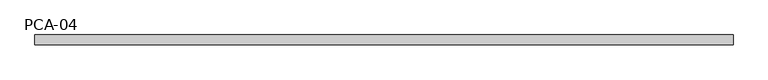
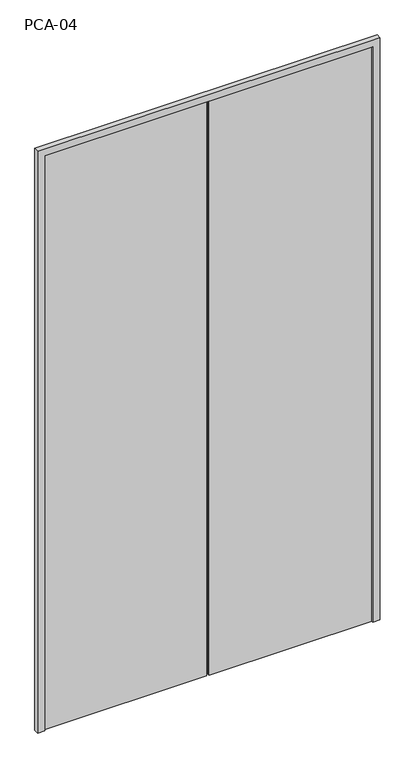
"""IFC4 building model written with IfcOpenShell, lengths in millimetres: furniture geometry, Puerta Closet abatible 2 hojas completas : PCA-04."""

from ifc_helpers import new_model, si_unit, frame, origin, origin_with_axes, place, context, project, spatial, polyline, outline, extrude, source, transform, mapped, element, save


def pca_04_a41ebd99(model_context):
    return source(origin(), model_context, "Body", "SweptSolid", [
        extrude(outline(polyline([(-585.0, 86.6666667), (-1260.0, 86.6666667), (-1260.0, 93.3333333), (-585.0, 93.3333333), (-585.0, 86.6666667)])), origin_with_axes(), (0.0, 0.0, 1.0), 2520.0),
        extrude(outline(polyline([(0.0, -1290.0), (0.0, -1260.0), (2520.0, -1260.0), (2520.0, 100.0), (0.0, 100.0), (0.0, 130.0), (2550.0, 130.0), (2550.0, -1290.0), (0.0, -1290.0)])), frame((0.0, 80.0, 0.0), z_axis=(0.0, 1.0, 0.0), x_axis=(0.0, 0.0, 1.0)), (0.0, 0.0, 1.0), 20.0),
        extrude(outline(polyline([(100.0, 86.6666667), (-575.0, 86.6666667), (-575.0, 93.3333333), (100.0, 93.3333333), (100.0, 86.6666667)])), origin_with_axes(), (0.0, 0.0, 1.0), 2520.0),
    ])


if __name__ == "__main__":
    model = new_model("IFC4")
    model_context = context("Model", 3, world=origin())
    ifc_project = project(units=[si_unit("LENGTHUNIT", "METRE", prefix="MILLI")], contexts=[model_context])
    site = spatial("IfcSite", under=ifc_project)
    building = spatial("IfcBuilding", under=site)
    placement = place(None, origin())
    pca_04_shape = pca_04_a41ebd99(model_context)
    element("IfcFurniture", 1, ObjectType="Puerta Closet abatible 2 hojas completas : PCA-04", at=placement, inside=building, context=model_context, shape_type="MappedRepresentation", body=[
        mapped(pca_04_shape, transform((0.0, 0.0, 0.0), x_axis=(1.0, 0.0, 0.0), y_axis=(0.0, 1.0, 0.0), z_axis=(0.0, 0.0, 1.0))),
    ])
    save(model, "model.ifc")
